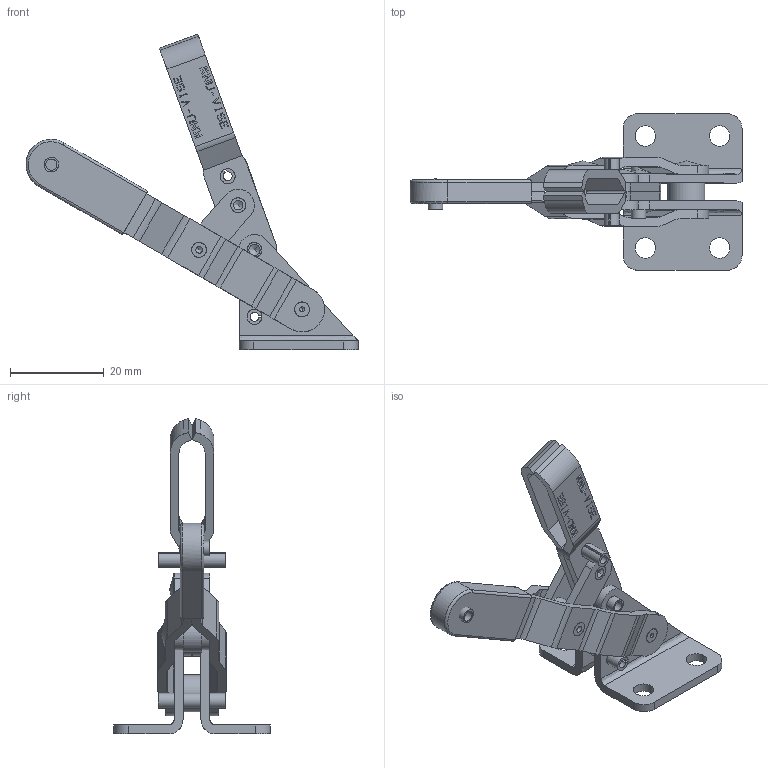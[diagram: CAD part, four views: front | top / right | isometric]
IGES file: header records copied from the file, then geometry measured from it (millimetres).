
Global section: file name: V-120 Open; native system: Autodesk RealDWG; preprocessor: Autodesk Translation Framework DWG producer (atf_dwg_producer); organization: unknown; date: 20151002.165535; units: inch
Bounding box: 70.88 x 33.43 x 67.39 mm (x, y, z)
Volume: 8366.6 mm3; surface area: 12895.3 mm2
Topology: 18 solids, 18 shells, 644 faces, 1733 edges, 1168 vertices
Faces by surface type: bspline 644
